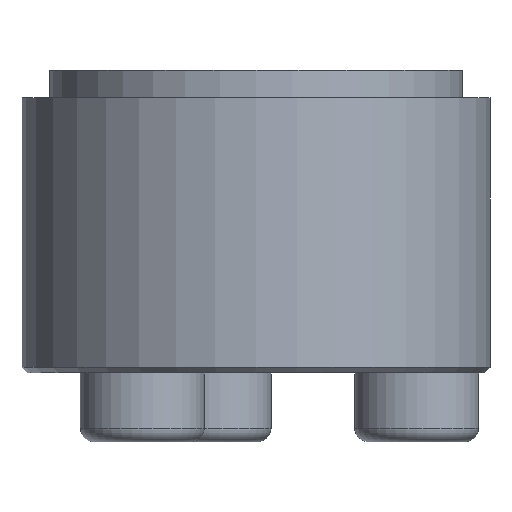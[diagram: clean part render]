
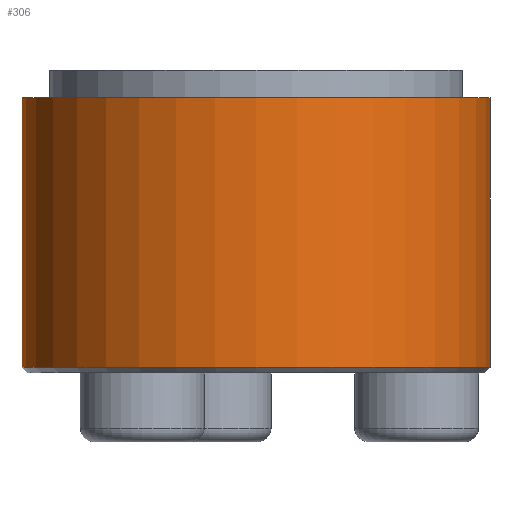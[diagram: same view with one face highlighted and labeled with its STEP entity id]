
A CAD part, front view. The second image highlights one B-rep face of the part: STEP entity #306.
In plain terms, the highlighted cylindrical face has radius 8.5 mm (diameter 17 mm), a partial arc.
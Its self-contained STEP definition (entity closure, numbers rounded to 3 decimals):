
#38 = DIRECTION ( 'NONE',  ( 0., 0., -1. ) ) ;
#60 = CARTESIAN_POINT ( 'NONE',  ( -8.5, 0., 0. ) ) ;
#72 = LINE ( 'NONE', #1368, #156 ) ;
#80 = DIRECTION ( 'NONE',  ( 0., 0., -1. ) ) ;
#116 = DIRECTION ( 'NONE',  ( -1., 0., 0. ) ) ;
#146 = EDGE_CURVE ( 'NONE', #837, #562, #72, .T. ) ;
#156 = VECTOR ( 'NONE', #693, 1000. ) ;
#169 = CARTESIAN_POINT ( 'NONE',  ( 0., 0., -5.3 ) ) ;
#222 = CARTESIAN_POINT ( 'NONE',  ( 0., 0., 0. ) ) ;
#279 = ORIENTED_EDGE ( 'NONE', *, *, #146, .F. ) ;
#281 = EDGE_CURVE ( 'NONE', #1405, #562, #990, .T. ) ;
#306 = ADVANCED_FACE ( 'NONE', ( #329 ), #953, .T. ) ;
#329 = FACE_OUTER_BOUND ( 'NONE', #455, .T. ) ;
#443 = CIRCLE ( 'NONE', #516, 8.5 ) ;
#455 = EDGE_LOOP ( 'NONE', ( #279, #1033, #1110, #543 ) ) ;
#516 = AXIS2_PLACEMENT_3D ( 'NONE', #859, #1447, #1437 ) ;
#543 = ORIENTED_EDGE ( 'NONE', *, *, #281, .T. ) ;
#562 = VERTEX_POINT ( 'NONE', #928 ) ;
#628 = DIRECTION ( 'NONE',  ( -1., 0., 0. ) ) ;
#649 = AXIS2_PLACEMENT_3D ( 'NONE', #222, #80, #628 ) ;
#693 = DIRECTION ( 'NONE',  ( 0., 0., -1. ) ) ;
#776 = CARTESIAN_POINT ( 'NONE',  ( -8.5, 0., 4.5 ) ) ;
#837 = VERTEX_POINT ( 'NONE', #983 ) ;
#839 = VERTEX_POINT ( 'NONE', #776 ) ;
#859 = CARTESIAN_POINT ( 'NONE',  ( 0., 0., 4.5 ) ) ;
#873 = AXIS2_PLACEMENT_3D ( 'NONE', #169, #947, #116 ) ;
#928 = CARTESIAN_POINT ( 'NONE',  ( 8.5, 0., -5.3 ) ) ;
#947 = DIRECTION ( 'NONE',  ( 0., 0., 1. ) ) ;
#953 = CYLINDRICAL_SURFACE ( 'NONE', #649, 8.5 ) ;
#983 = CARTESIAN_POINT ( 'NONE',  ( 8.5, 0., 4.5 ) ) ;
#990 = CIRCLE ( 'NONE', #873, 8.5 ) ;
#1007 = VECTOR ( 'NONE', #38, 1000. ) ;
#1033 = ORIENTED_EDGE ( 'NONE', *, *, #1395, .T. ) ;
#1103 = EDGE_CURVE ( 'NONE', #839, #1405, #1208, .T. ) ;
#1110 = ORIENTED_EDGE ( 'NONE', *, *, #1103, .T. ) ;
#1208 = LINE ( 'NONE', #60, #1007 ) ;
#1318 = CARTESIAN_POINT ( 'NONE',  ( -8.5, 0., -5.3 ) ) ;
#1368 = CARTESIAN_POINT ( 'NONE',  ( 8.5, 0., 0. ) ) ;
#1395 = EDGE_CURVE ( 'NONE', #837, #839, #443, .T. ) ;
#1405 = VERTEX_POINT ( 'NONE', #1318 ) ;
#1437 = DIRECTION ( 'NONE',  ( 1., 0., 0. ) ) ;
#1447 = DIRECTION ( 'NONE',  ( 0., 0., -1. ) ) ;
